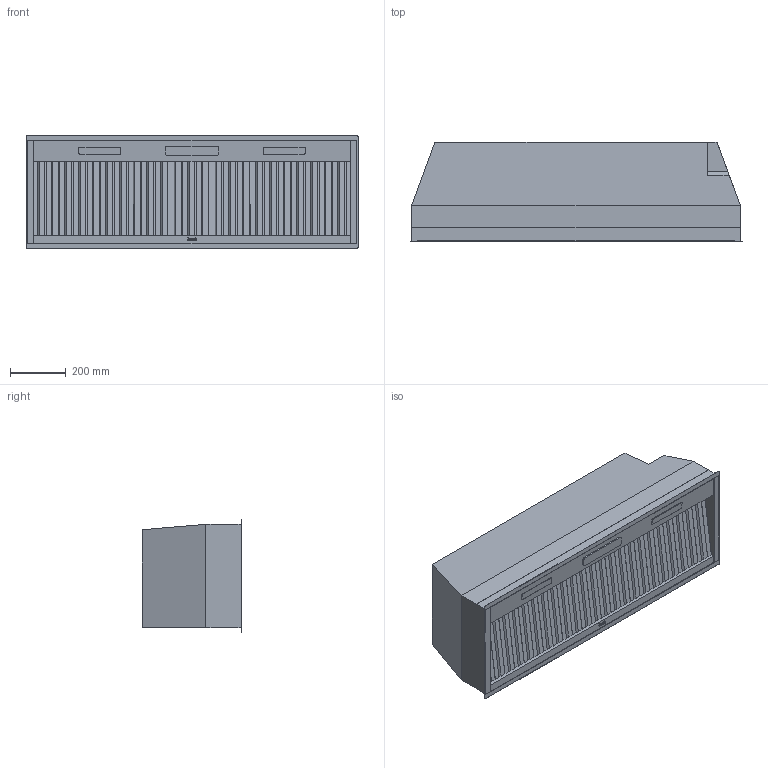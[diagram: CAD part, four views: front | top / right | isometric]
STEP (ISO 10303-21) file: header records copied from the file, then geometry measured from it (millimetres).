
FILE_DESCRIPTION((''),'2;1');
FILE_NAME('HBN224812SS_WEB_CAD_MODEL','2025-04-29T08:35:07',('BoutinM'),(''),'CREO PARAMETRIC BY PTC INC, 2023424','CREO PARAMETRIC BY PTC INC, 2023424','');
FILE_SCHEMA(('CONFIG_CONTROL_DESIGN','SHAPE_APPEARANCE_LAYERS_GROUPS'));
Length unit declared in the file: inch
Products named in the file (1): HBN224812SS_WEB_CAD_MODEL
Bounding box: 1189.41 x 357.27 x 408.05 mm (x, y, z)
Volume: 133723696.8 mm3; surface area: 2152479.3 mm2
Topology: 1 solids, 1 shells, 282 faces, 722 edges, 450 vertices
Faces by surface type: plane 253, cylinder 29
Entity records: 11416 total; most frequent: CARTESIAN_POINT 1454, ORIENTED_EDGE 1444, DIRECTION 1344, PRESENTATION_STYLE_ASSIGNMENT 774, STYLED_ITEM 723, CURVE_STYLE 722, EDGE_CURVE 722, VECTOR 664
